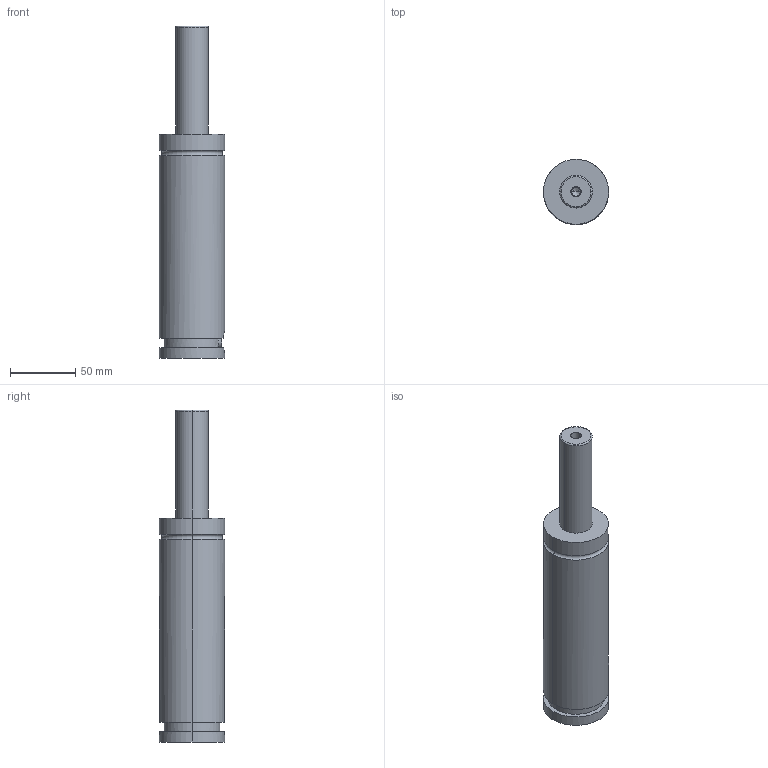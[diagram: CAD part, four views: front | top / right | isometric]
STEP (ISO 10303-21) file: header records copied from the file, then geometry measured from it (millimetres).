
FILE_DESCRIPTION(/* description */ (''),/* implementation_level */ '2;1');
FILE_NAME(/* name */ '3d_gse50-80_03851_r00.stp',/* time_stamp */ '2011-01-10T14:15:18+09:00',/* author */ ('MISUMI'),/* organization */ (''),/* preprocessor_version */ 'ST-DEVELOPER v11',/* originating_system */ 'UGS - NX 5.0',/* authorisation */ '');
FILE_SCHEMA (('CONFIG_CONTROL_DESIGN'));
Length unit declared in the file: millimetre
Products named in the file (1): 3d_gse50-80_03851_r00
Bounding box: 50 x 50 x 255 mm (x, y, z)
Volume: 371406 mm3; surface area: 39979.1 mm2
Topology: 1 solids, 1 shells, 57 faces, 125 edges, 79 vertices
Faces by surface type: cylinder 26, plane 21, cone 6, torus 4
Entity records: 1669 total; most frequent: DIRECTION 297, CARTESIAN_POINT 286, ORIENTED_EDGE 246, EDGE_CURVE 123, AXIS2_PLACEMENT_3D 122, VERTEX_POINT 79, EDGE_LOOP 68, CIRCLE 64
